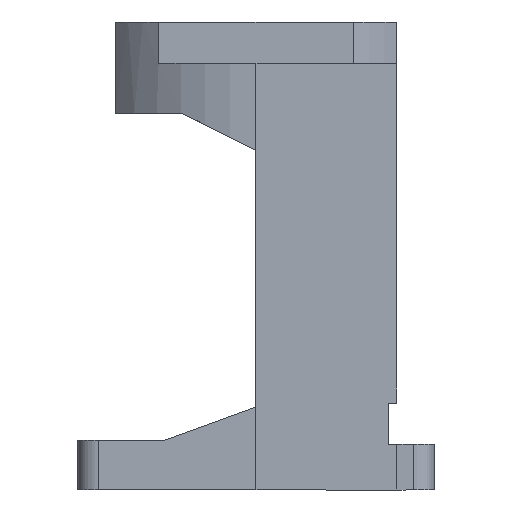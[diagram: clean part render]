
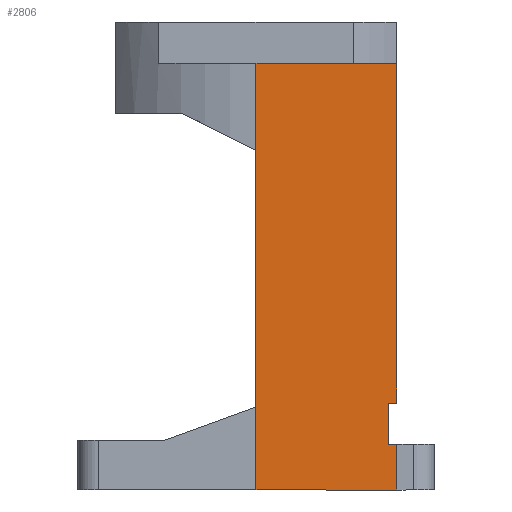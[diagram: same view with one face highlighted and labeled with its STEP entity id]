
A CAD part, left-side view. The second image highlights one B-rep face of the part: STEP entity #2806.
In plain terms, the highlighted planar face has unit normal (-1, 0, 0).
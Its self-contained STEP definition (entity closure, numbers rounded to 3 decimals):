
#14 = VECTOR ( 'NONE', #2135, 1000. ) ;
#106 = EDGE_CURVE ( 'NONE', #601, #585, #3300, .T. ) ;
#165 = EDGE_CURVE ( 'NONE', #875, #601, #3344, .T. ) ;
#204 = VECTOR ( 'NONE', #4141, 1000. ) ;
#234 = VECTOR ( 'NONE', #4190, 1000. ) ;
#236 = VECTOR ( 'NONE', #4192, 1000. ) ;
#279 = VECTOR ( 'NONE', #4272, 1000. ) ;
#284 = VECTOR ( 'NONE', #4280, 1000. ) ;
#426 = EDGE_LOOP ( 'NONE', ( #1967, #1968, #1965, #1970, #1969, #1971, #1972, #1973 ) ) ;
#585 = VERTEX_POINT ( 'NONE', #2383 ) ;
#601 = VERTEX_POINT ( 'NONE', #2399 ) ;
#650 = VECTOR ( 'NONE', #4071, 1000. ) ;
#875 = VERTEX_POINT ( 'NONE', #3763 ) ;
#1096 = PLANE ( 'NONE',  #3067 ) ;
#1097 = CARTESIAN_POINT ( 'NONE',  ( -44., -34., 97. ) ) ;
#1098 = DIRECTION ( 'NONE',  ( 1., 0., 0. ) ) ;
#1099 = DIRECTION ( 'NONE',  ( 0., -1., 0. ) ) ;
#1542 = VERTEX_POINT ( 'NONE', #3776 ) ;
#1543 = VERTEX_POINT ( 'NONE', #3777 ) ;
#1564 = VERTEX_POINT ( 'NONE', #3798 ) ;
#1565 = VERTEX_POINT ( 'NONE', #3799 ) ;
#1567 = VERTEX_POINT ( 'NONE', #3801 ) ;
#1965 = ORIENTED_EDGE ( 'NONE', *, *, #106, .F. ) ;
#1967 = ORIENTED_EDGE ( 'NONE', *, *, #2720, .F. ) ;
#1968 = ORIENTED_EDGE ( 'NONE', *, *, #2686, .T. ) ;
#1969 = ORIENTED_EDGE ( 'NONE', *, *, #2637, .F. ) ;
#1970 = ORIENTED_EDGE ( 'NONE', *, *, #165, .F. ) ;
#1971 = ORIENTED_EDGE ( 'NONE', *, *, #2667, .F. ) ;
#1972 = ORIENTED_EDGE ( 'NONE', *, *, #2685, .F. ) ;
#1973 = ORIENTED_EDGE ( 'NONE', *, *, #2716, .F. ) ;
#2134 = CARTESIAN_POINT ( 'NONE',  ( -44., -34., 10. ) ) ;
#2135 = DIRECTION ( 'NONE',  ( 0., 0., -1. ) ) ;
#2290 = CARTESIAN_POINT ( 'NONE',  ( -44., 0., 97. ) ) ;
#2291 = DIRECTION ( 'NONE',  ( 0., -1., 0. ) ) ;
#2383 = CARTESIAN_POINT ( 'NONE',  ( -44., -34., 15. ) ) ;
#2399 = CARTESIAN_POINT ( 'NONE',  ( -44., -34., 97. ) ) ;
#2637 = EDGE_CURVE ( 'NONE', #1543, #875, #3479, .T. ) ;
#2667 = EDGE_CURVE ( 'NONE', #1542, #1543, #3503, .T. ) ;
#2685 = EDGE_CURVE ( 'NONE', #1567, #1542, #3508, .T. ) ;
#2686 = EDGE_CURVE ( 'NONE', #1564, #585, #3509, .T. ) ;
#2716 = EDGE_CURVE ( 'NONE', #1565, #1567, #3530, .T. ) ;
#2720 = EDGE_CURVE ( 'NONE', #1564, #1565, #3534, .T. ) ;
#2806 = ADVANCED_FACE ( 'NONE', ( #3545 ), #1096, .F. ) ;
#3067 = AXIS2_PLACEMENT_3D ( 'NONE', #1097, #1098, #1099 ) ;
#3300 = LINE ( 'NONE', #2134, #14 ) ;
#3344 = LINE ( 'NONE', #2290, #4368 ) ;
#3479 = LINE ( 'NONE', #4070, #650 ) ;
#3503 = LINE ( 'NONE', #4140, #204 ) ;
#3508 = LINE ( 'NONE', #4189, #234 ) ;
#3509 = LINE ( 'NONE', #4191, #236 ) ;
#3530 = LINE ( 'NONE', #4271, #279 ) ;
#3534 = LINE ( 'NONE', #4279, #284 ) ;
#3545 = FACE_OUTER_BOUND ( 'NONE', #426, .T. ) ;
#3763 = CARTESIAN_POINT ( 'NONE',  ( -44., 0., 97. ) ) ;
#3776 = CARTESIAN_POINT ( 'NONE',  ( -44., -34., -6. ) ) ;
#3777 = CARTESIAN_POINT ( 'NONE',  ( -44., 0., -6. ) ) ;
#3798 = CARTESIAN_POINT ( 'NONE',  ( -44., -32., 15. ) ) ;
#3799 = CARTESIAN_POINT ( 'NONE',  ( -44., -32., 5. ) ) ;
#3801 = CARTESIAN_POINT ( 'NONE',  ( -44., -34., 5. ) ) ;
#4070 = CARTESIAN_POINT ( 'NONE',  ( -44., 0., 97. ) ) ;
#4071 = DIRECTION ( 'NONE',  ( 0., 0., 1. ) ) ;
#4140 = CARTESIAN_POINT ( 'NONE',  ( -44., 0., -6. ) ) ;
#4141 = DIRECTION ( 'NONE',  ( 0., 1., 0. ) ) ;
#4189 = CARTESIAN_POINT ( 'NONE',  ( -44., -34., -6. ) ) ;
#4190 = DIRECTION ( 'NONE',  ( 0., 0., -1. ) ) ;
#4191 = CARTESIAN_POINT ( 'NONE',  ( -44., -34., 15. ) ) ;
#4192 = DIRECTION ( 'NONE',  ( 0., -1., 0. ) ) ;
#4271 = CARTESIAN_POINT ( 'NONE',  ( -44., -34., 5. ) ) ;
#4272 = DIRECTION ( 'NONE',  ( 0., -1., 0. ) ) ;
#4279 = CARTESIAN_POINT ( 'NONE',  ( -44., -32., 5. ) ) ;
#4280 = DIRECTION ( 'NONE',  ( 0., 0., -1. ) ) ;
#4368 = VECTOR ( 'NONE', #2291, 1000. ) ;
